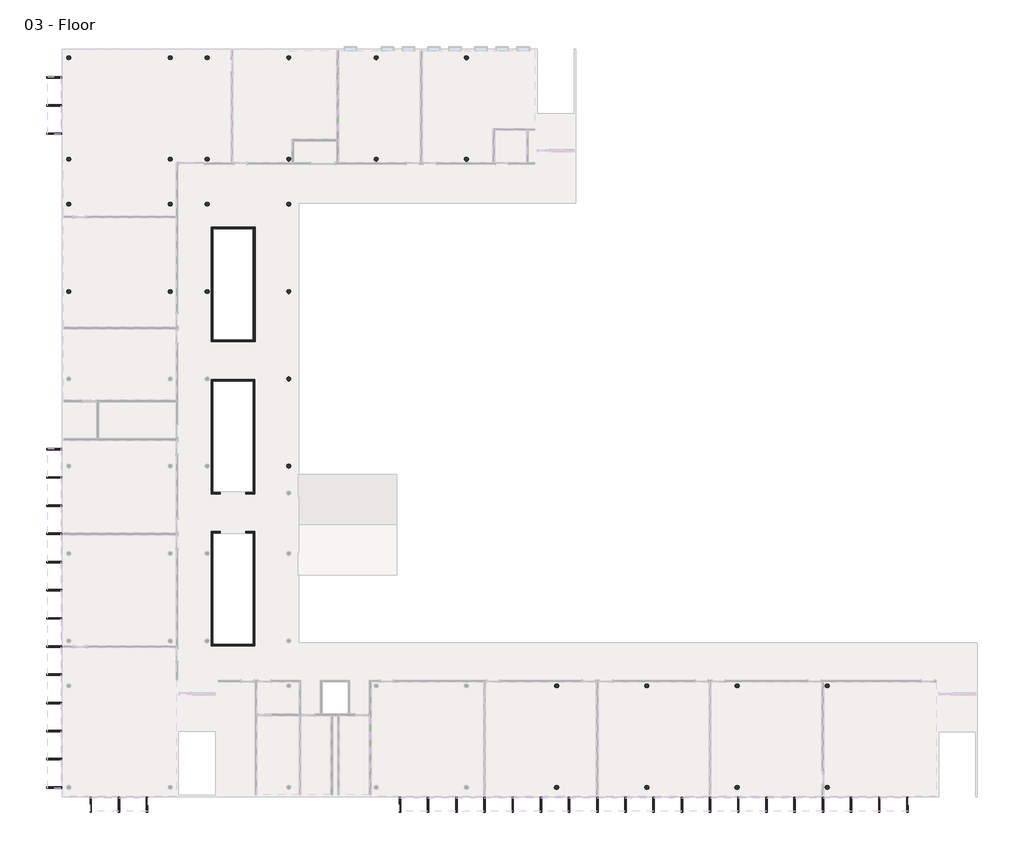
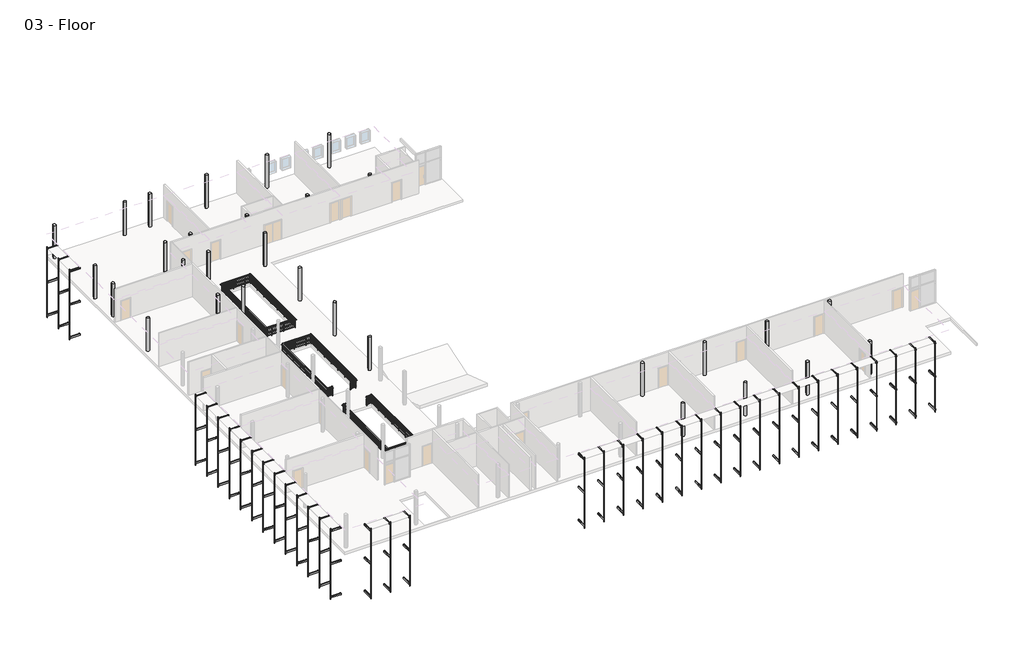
# One storey, part 4 of 4: 38 proxies, 30 columns, 3 railings.
"""IFC4 building model written with IfcOpenShell, lengths in millimetres."""

from ifc_helpers import new_model, si_unit, point, frame, frame_2d, origin, place, context, project, spatial, circle_curve, trimmed, segment, composite_curve, outline, extrude, transform, mapped, element, save
from components import shade_support_shade_support_fc9bf8e5, guardrail_pipe_deec17ca, guardrail_pipe_8e6e829c, guardrail_pipe_cbd437d9, guardrail_pipe_e2f870d2, guardrail_pipe_d067cc8d, guardrail_pipe_aaa3e98f

model = new_model("IFC4")

# Units and contexts
model_context = context("Model", 3, world=origin())
ifc_project = project(units=[si_unit("LENGTHUNIT", "METRE", prefix="MILLI")], contexts=[model_context])

# Site, building, storey
site = spatial("IfcSite", under=ifc_project)
building = spatial("IfcBuilding", under=site)
storey = spatial("IfcBuildingStorey", under=building, Name="03 - Floor", Elevation=7315.2)

# Proxies
placement = place(None, origin())
shade_support_shade_support_shape = shade_support_shade_support_fc9bf8e5(model_context)
element("IfcBuildingElementProxy", 1, Name="SHADE SUPPORT : SHADE SUPPORT", ObjectType="SHADE SUPPORT : SHADE SUPPORT", at=placement, inside=storey, context=model_context, shape_type="MappedRepresentation", body=[
    mapped(shade_support_shade_support_shape, transform((2210.7207476, -111.2, 2470.15), x_axis=(1.0, 0.0, 0.0), y_axis=(0.0, 0.0, 1.0), z_axis=(0.0, -1.0, 0.0))),
])
element("IfcBuildingElementProxy", 2, Name="SHADE SUPPORT : SHADE SUPPORT", ObjectType="SHADE SUPPORT : SHADE SUPPORT", at=placement, inside=storey, context=model_context, shape_type="MappedRepresentation", body=[
    mapped(shade_support_shade_support_shape, transform((4242.7207476, -111.2, 2470.15), x_axis=(1.0, 0.0, 0.0), y_axis=(0.0, 0.0, 1.0), z_axis=(0.0, -1.0, 0.0))),
])
element("IfcBuildingElementProxy", 3, Name="SHADE SUPPORT : SHADE SUPPORT", ObjectType="SHADE SUPPORT : SHADE SUPPORT", at=placement, inside=storey, context=model_context, shape_type="MappedRepresentation", body=[
    mapped(shade_support_shade_support_shape, transform((6274.7207476, -111.2, 2470.15), x_axis=(1.0, 0.0, 0.0), y_axis=(0.0, 0.0, 1.0), z_axis=(0.0, -1.0, 0.0))),
])
element("IfcBuildingElementProxy", 4, Name="SHADE SUPPORT : SHADE SUPPORT", ObjectType="SHADE SUPPORT : SHADE SUPPORT", at=placement, inside=storey, context=model_context, shape_type="MappedRepresentation", body=[
    mapped(shade_support_shade_support_shape, transform((24499.2207476, -111.2, 2470.15), x_axis=(1.0, 0.0, 0.0), y_axis=(0.0, 0.0, 1.0), z_axis=(0.0, -1.0, 0.0))),
])
element("IfcBuildingElementProxy", 5, Name="SHADE SUPPORT : SHADE SUPPORT", ObjectType="SHADE SUPPORT : SHADE SUPPORT", at=placement, inside=storey, context=model_context, shape_type="MappedRepresentation", body=[
    mapped(shade_support_shade_support_shape, transform((26531.2207476, -111.2, 2470.15), x_axis=(1.0, 0.0, 0.0), y_axis=(0.0, 0.0, 1.0), z_axis=(0.0, -1.0, 0.0))),
])
element("IfcBuildingElementProxy", 6, Name="SHADE SUPPORT : SHADE SUPPORT", ObjectType="SHADE SUPPORT : SHADE SUPPORT", at=placement, inside=storey, context=model_context, shape_type="MappedRepresentation", body=[
    mapped(shade_support_shade_support_shape, transform((28563.2207476, -111.2, 2470.15), x_axis=(1.0, 0.0, 0.0), y_axis=(0.0, 0.0, 1.0), z_axis=(0.0, -1.0, 0.0))),
])
element("IfcBuildingElementProxy", 7, Name="SHADE SUPPORT : SHADE SUPPORT", ObjectType="SHADE SUPPORT : SHADE SUPPORT", at=placement, inside=storey, context=model_context, shape_type="MappedRepresentation", body=[
    mapped(shade_support_shade_support_shape, transform((30595.2207476, -111.2, 2470.15), x_axis=(1.0, 0.0, 0.0), y_axis=(0.0, 0.0, 1.0), z_axis=(0.0, -1.0, 0.0))),
])
element("IfcBuildingElementProxy", 8, Name="SHADE SUPPORT : SHADE SUPPORT", ObjectType="SHADE SUPPORT : SHADE SUPPORT", at=placement, inside=storey, context=model_context, shape_type="MappedRepresentation", body=[
    mapped(shade_support_shade_support_shape, transform((32627.2207476, -111.2, 2470.15), x_axis=(1.0, 0.0, 0.0), y_axis=(0.0, 0.0, 1.0), z_axis=(0.0, -1.0, 0.0))),
])
element("IfcBuildingElementProxy", 9, Name="SHADE SUPPORT : SHADE SUPPORT", ObjectType="SHADE SUPPORT : SHADE SUPPORT", at=placement, inside=storey, context=model_context, shape_type="MappedRepresentation", body=[
    mapped(shade_support_shade_support_shape, transform((34659.2207476, -111.2, 2470.15), x_axis=(1.0, 0.0, 0.0), y_axis=(0.0, 0.0, 1.0), z_axis=(0.0, -1.0, 0.0))),
])
element("IfcBuildingElementProxy", 10, Name="SHADE SUPPORT : SHADE SUPPORT", ObjectType="SHADE SUPPORT : SHADE SUPPORT", at=placement, inside=storey, context=model_context, shape_type="MappedRepresentation", body=[
    mapped(shade_support_shade_support_shape, transform((36691.2207476, -111.2, 2470.15), x_axis=(1.0, 0.0, 0.0), y_axis=(0.0, 0.0, 1.0), z_axis=(0.0, -1.0, 0.0))),
])
element("IfcBuildingElementProxy", 11, Name="SHADE SUPPORT : SHADE SUPPORT", ObjectType="SHADE SUPPORT : SHADE SUPPORT", at=placement, inside=storey, context=model_context, shape_type="MappedRepresentation", body=[
    mapped(shade_support_shade_support_shape, transform((38723.2207476, -111.2, 2470.15), x_axis=(1.0, 0.0, 0.0), y_axis=(0.0, 0.0, 1.0), z_axis=(0.0, -1.0, 0.0))),
])
element("IfcBuildingElementProxy", 12, Name="SHADE SUPPORT : SHADE SUPPORT", ObjectType="SHADE SUPPORT : SHADE SUPPORT", at=placement, inside=storey, context=model_context, shape_type="MappedRepresentation", body=[
    mapped(shade_support_shade_support_shape, transform((40755.2207476, -111.2, 2470.15), x_axis=(1.0, 0.0, 0.0), y_axis=(0.0, 0.0, 1.0), z_axis=(0.0, -1.0, 0.0))),
])
element("IfcBuildingElementProxy", 13, Name="SHADE SUPPORT : SHADE SUPPORT", ObjectType="SHADE SUPPORT : SHADE SUPPORT", at=placement, inside=storey, context=model_context, shape_type="MappedRepresentation", body=[
    mapped(shade_support_shade_support_shape, transform((42787.2207476, -111.2, 2470.15), x_axis=(1.0, 0.0, 0.0), y_axis=(0.0, 0.0, 1.0), z_axis=(0.0, -1.0, 0.0))),
])
element("IfcBuildingElementProxy", 14, Name="SHADE SUPPORT : SHADE SUPPORT", ObjectType="SHADE SUPPORT : SHADE SUPPORT", at=placement, inside=storey, context=model_context, shape_type="MappedRepresentation", body=[
    mapped(shade_support_shade_support_shape, transform((44819.2207476, -111.2, 2470.15), x_axis=(1.0, 0.0, 0.0), y_axis=(0.0, 0.0, 1.0), z_axis=(0.0, -1.0, 0.0))),
])
element("IfcBuildingElementProxy", 15, Name="SHADE SUPPORT : SHADE SUPPORT", ObjectType="SHADE SUPPORT : SHADE SUPPORT", at=placement, inside=storey, context=model_context, shape_type="MappedRepresentation", body=[
    mapped(shade_support_shade_support_shape, transform((46851.2207476, -111.2, 2470.15), x_axis=(1.0, 0.0, 0.0), y_axis=(0.0, 0.0, 1.0), z_axis=(0.0, -1.0, 0.0))),
])
element("IfcBuildingElementProxy", 16, Name="SHADE SUPPORT : SHADE SUPPORT", ObjectType="SHADE SUPPORT : SHADE SUPPORT", at=placement, inside=storey, context=model_context, shape_type="MappedRepresentation", body=[
    mapped(shade_support_shade_support_shape, transform((48883.2207476, -111.2, 2470.15), x_axis=(1.0, 0.0, 0.0), y_axis=(0.0, 0.0, 1.0), z_axis=(0.0, -1.0, 0.0))),
])
element("IfcBuildingElementProxy", 17, Name="SHADE SUPPORT : SHADE SUPPORT", ObjectType="SHADE SUPPORT : SHADE SUPPORT", at=placement, inside=storey, context=model_context, shape_type="MappedRepresentation", body=[
    mapped(shade_support_shade_support_shape, transform((50915.2207476, -111.2, 2470.15), x_axis=(1.0, 0.0, 0.0), y_axis=(0.0, 0.0, 1.0), z_axis=(0.0, -1.0, 0.0))),
])
element("IfcBuildingElementProxy", 18, Name="SHADE SUPPORT : SHADE SUPPORT", ObjectType="SHADE SUPPORT : SHADE SUPPORT", at=placement, inside=storey, context=model_context, shape_type="MappedRepresentation", body=[
    mapped(shade_support_shade_support_shape, transform((52947.2207476, -111.2, 2470.15), x_axis=(1.0, 0.0, 0.0), y_axis=(0.0, 0.0, 1.0), z_axis=(0.0, -1.0, 0.0))),
])
element("IfcBuildingElementProxy", 19, Name="SHADE SUPPORT : SHADE SUPPORT", ObjectType="SHADE SUPPORT : SHADE SUPPORT", at=placement, inside=storey, context=model_context, shape_type="MappedRepresentation", body=[
    mapped(shade_support_shade_support_shape, transform((54979.2207476, -111.2, 2470.15), x_axis=(1.0, 0.0, 0.0), y_axis=(0.0, 0.0, 1.0), z_axis=(0.0, -1.0, 0.0))),
])
element("IfcBuildingElementProxy", 20, Name="SHADE SUPPORT : SHADE SUPPORT", ObjectType="SHADE SUPPORT : SHADE SUPPORT", at=placement, inside=storey, context=model_context, shape_type="MappedRepresentation", body=[
    mapped(shade_support_shade_support_shape, transform((57011.2207476, -111.2, 2470.15), x_axis=(1.0, 0.0, 0.0), y_axis=(0.0, 0.0, 1.0), z_axis=(0.0, -1.0, 0.0))),
])
element("IfcBuildingElementProxy", 21, Name="SHADE SUPPORT : SHADE SUPPORT", ObjectType="SHADE SUPPORT : SHADE SUPPORT", at=placement, inside=storey, context=model_context, shape_type="MappedRepresentation", body=[
    mapped(shade_support_shade_support_shape, transform((59043.2207476, -111.2, 2470.15), x_axis=(1.0, 0.0, 0.0), y_axis=(0.0, 0.0, 1.0), z_axis=(0.0, -1.0, 0.0))),
])
element("IfcBuildingElementProxy", 22, Name="SHADE SUPPORT : SHADE SUPPORT", ObjectType="SHADE SUPPORT : SHADE SUPPORT", at=placement, inside=storey, context=model_context, shape_type="MappedRepresentation", body=[
    mapped(shade_support_shade_support_shape, transform((61075.2207476, -111.2, 2470.15), x_axis=(1.0, 0.0, 0.0), y_axis=(0.0, 0.0, 1.0), z_axis=(0.0, -1.0, 0.0))),
])
element("IfcBuildingElementProxy", 23, Name="SHADE SUPPORT : SHADE SUPPORT", ObjectType="SHADE SUPPORT : SHADE SUPPORT", at=placement, inside=storey, context=model_context, shape_type="MappedRepresentation", body=[
    mapped(shade_support_shade_support_shape, transform((115.2207476, 600.0, 2470.15), x_axis=(0.0, -1.0, 0.0), y_axis=(0.0, 0.0, 1.0), z_axis=(-1.0, 0.0, 0.0))),
])
element("IfcBuildingElementProxy", 24, Name="SHADE SUPPORT : SHADE SUPPORT", ObjectType="SHADE SUPPORT : SHADE SUPPORT", at=placement, inside=storey, context=model_context, shape_type="MappedRepresentation", body=[
    mapped(shade_support_shade_support_shape, transform((115.2207476, 2632.0, 2470.15), x_axis=(0.0, -1.0, 0.0), y_axis=(0.0, 0.0, 1.0), z_axis=(-1.0, 0.0, 0.0))),
])
element("IfcBuildingElementProxy", 25, Name="SHADE SUPPORT : SHADE SUPPORT", ObjectType="SHADE SUPPORT : SHADE SUPPORT", at=placement, inside=storey, context=model_context, shape_type="MappedRepresentation", body=[
    mapped(shade_support_shade_support_shape, transform((115.2207476, 4664.0, 2470.15), x_axis=(0.0, -1.0, 0.0), y_axis=(0.0, 0.0, 1.0), z_axis=(-1.0, 0.0, 0.0))),
])
element("IfcBuildingElementProxy", 26, Name="SHADE SUPPORT : SHADE SUPPORT", ObjectType="SHADE SUPPORT : SHADE SUPPORT", at=placement, inside=storey, context=model_context, shape_type="MappedRepresentation", body=[
    mapped(shade_support_shade_support_shape, transform((115.2207476, 6696.0, 2470.15), x_axis=(0.0, -1.0, 0.0), y_axis=(0.0, 0.0, 1.0), z_axis=(-1.0, 0.0, 0.0))),
])
element("IfcBuildingElementProxy", 27, Name="SHADE SUPPORT : SHADE SUPPORT", ObjectType="SHADE SUPPORT : SHADE SUPPORT", at=placement, inside=storey, context=model_context, shape_type="MappedRepresentation", body=[
    mapped(shade_support_shade_support_shape, transform((115.2207476, 8728.0, 2470.15), x_axis=(0.0, -1.0, 0.0), y_axis=(0.0, 0.0, 1.0), z_axis=(-1.0, 0.0, 0.0))),
])
element("IfcBuildingElementProxy", 28, Name="SHADE SUPPORT : SHADE SUPPORT", ObjectType="SHADE SUPPORT : SHADE SUPPORT", at=placement, inside=storey, context=model_context, shape_type="MappedRepresentation", body=[
    mapped(shade_support_shade_support_shape, transform((115.2207476, 10760.0, 2470.15), x_axis=(0.0, -1.0, 0.0), y_axis=(0.0, 0.0, 1.0), z_axis=(-1.0, 0.0, 0.0))),
])
element("IfcBuildingElementProxy", 29, Name="SHADE SUPPORT : SHADE SUPPORT", ObjectType="SHADE SUPPORT : SHADE SUPPORT", at=placement, inside=storey, context=model_context, shape_type="MappedRepresentation", body=[
    mapped(shade_support_shade_support_shape, transform((115.2207476, 12792.0, 2470.15), x_axis=(0.0, -1.0, 0.0), y_axis=(0.0, 0.0, 1.0), z_axis=(-1.0, 0.0, 0.0))),
])
element("IfcBuildingElementProxy", 30, Name="SHADE SUPPORT : SHADE SUPPORT", ObjectType="SHADE SUPPORT : SHADE SUPPORT", at=placement, inside=storey, context=model_context, shape_type="MappedRepresentation", body=[
    mapped(shade_support_shade_support_shape, transform((115.2207476, 14824.0, 2470.15), x_axis=(0.0, -1.0, 0.0), y_axis=(0.0, 0.0, 1.0), z_axis=(-1.0, 0.0, 0.0))),
])
element("IfcBuildingElementProxy", 31, Name="SHADE SUPPORT : SHADE SUPPORT", ObjectType="SHADE SUPPORT : SHADE SUPPORT", at=placement, inside=storey, context=model_context, shape_type="MappedRepresentation", body=[
    mapped(shade_support_shade_support_shape, transform((115.2207476, 16856.0, 2470.15), x_axis=(0.0, -1.0, 0.0), y_axis=(0.0, 0.0, 1.0), z_axis=(-1.0, 0.0, 0.0))),
])
element("IfcBuildingElementProxy", 32, Name="SHADE SUPPORT : SHADE SUPPORT", ObjectType="SHADE SUPPORT : SHADE SUPPORT", at=placement, inside=storey, context=model_context, shape_type="MappedRepresentation", body=[
    mapped(shade_support_shade_support_shape, transform((115.2207476, 18888.0, 2470.15), x_axis=(0.0, -1.0, 0.0), y_axis=(0.0, 0.0, 1.0), z_axis=(-1.0, 0.0, 0.0))),
])
element("IfcBuildingElementProxy", 33, Name="SHADE SUPPORT : SHADE SUPPORT", ObjectType="SHADE SUPPORT : SHADE SUPPORT", at=placement, inside=storey, context=model_context, shape_type="MappedRepresentation", body=[
    mapped(shade_support_shade_support_shape, transform((115.2207476, 20920.0, 2470.15), x_axis=(0.0, -1.0, 0.0), y_axis=(0.0, 0.0, 1.0), z_axis=(-1.0, 0.0, 0.0))),
])
element("IfcBuildingElementProxy", 34, Name="SHADE SUPPORT : SHADE SUPPORT", ObjectType="SHADE SUPPORT : SHADE SUPPORT", at=placement, inside=storey, context=model_context, shape_type="MappedRepresentation", body=[
    mapped(shade_support_shade_support_shape, transform((115.2207476, 22952.0, 2470.15), x_axis=(0.0, -1.0, 0.0), y_axis=(0.0, 0.0, 1.0), z_axis=(-1.0, 0.0, 0.0))),
])
element("IfcBuildingElementProxy", 35, Name="SHADE SUPPORT : SHADE SUPPORT", ObjectType="SHADE SUPPORT : SHADE SUPPORT", at=placement, inside=storey, context=model_context, shape_type="MappedRepresentation", body=[
    mapped(shade_support_shade_support_shape, transform((115.2207476, 24984.0, 2470.15), x_axis=(0.0, -1.0, 0.0), y_axis=(0.0, 0.0, 1.0), z_axis=(-1.0, 0.0, 0.0))),
])
element("IfcBuildingElementProxy", 36, Name="SHADE SUPPORT : SHADE SUPPORT", ObjectType="SHADE SUPPORT : SHADE SUPPORT", at=placement, inside=storey, context=model_context, shape_type="MappedRepresentation", body=[
    mapped(shade_support_shade_support_shape, transform((115.2207476, 47748.75, 2470.15), x_axis=(0.0, -1.0, 0.0), y_axis=(0.0, 0.0, 1.0), z_axis=(-1.0, 0.0, 0.0))),
])
element("IfcBuildingElementProxy", 37, Name="SHADE SUPPORT : SHADE SUPPORT", ObjectType="SHADE SUPPORT : SHADE SUPPORT", at=placement, inside=storey, context=model_context, shape_type="MappedRepresentation", body=[
    mapped(shade_support_shade_support_shape, transform((115.2207476, 49780.75, 2470.15), x_axis=(0.0, -1.0, 0.0), y_axis=(0.0, 0.0, 1.0), z_axis=(-1.0, 0.0, 0.0))),
])
element("IfcBuildingElementProxy", 38, Name="SHADE SUPPORT : SHADE SUPPORT", ObjectType="SHADE SUPPORT : SHADE SUPPORT", at=placement, inside=storey, context=model_context, shape_type="MappedRepresentation", body=[
    mapped(shade_support_shade_support_shape, transform((115.2207476, 51812.75, 2470.15), x_axis=(0.0, -1.0, 0.0), y_axis=(0.0, 0.0, 1.0), z_axis=(-1.0, 0.0, 0.0))),
])

# Columns
element("IfcColumn", 39, ObjectType="Concrete-Round-Column : 12\"", at=placement, inside=storey, context=model_context, shape_type="SweptSolid", body=[
    extrude(outline(composite_curve([segment(trimmed(circle_curve(frame_2d((635.9207476, 53228.8)), 152.4), [point((788.3207476, 53228.8))], [point((483.5207476, 53228.8))], False, "CARTESIAN"), True, "CONTINUOUS"), segment(trimmed(circle_curve(frame_2d((635.9207476, 53228.8)), 152.4), [point((483.5207476, 53228.8))], [point((788.3207476, 53228.8))], False, "CARTESIAN"), True, "CONTINUOUS")], self_intersect=False)), frame((0.0, 0.0, 7315.2), z_axis=(0.0, 0.0, 1.0), x_axis=(1.0, 0.0, 0.0)), (0.0, 0.0, 1.0), 3657.6),
])
element("IfcColumn", 40, ObjectType="Concrete-Round-Column : 12\"", at=placement, inside=storey, context=model_context, shape_type="SweptSolid", body=[
    extrude(outline(composite_curve([segment(trimmed(circle_curve(frame_2d((635.9207476, 45913.6)), 152.4), [point((788.3207476, 45913.6))], [point((483.5207476, 45913.6))], False, "CARTESIAN"), True, "CONTINUOUS"), segment(trimmed(circle_curve(frame_2d((635.9207476, 45913.6)), 152.4), [point((483.5207476, 45913.6))], [point((788.3207476, 45913.6))], False, "CARTESIAN"), True, "CONTINUOUS")], self_intersect=False)), frame((0.0, 0.0, 7315.2), z_axis=(0.0, 0.0, 1.0), x_axis=(1.0, 0.0, 0.0)), (0.0, 0.0, 1.0), 3657.6),
])
element("IfcColumn", 41, ObjectType="Concrete-Round-Column : 12\"", at=placement, inside=storey, context=model_context, shape_type="SweptSolid", body=[
    extrude(outline(composite_curve([segment(trimmed(circle_curve(frame_2d((635.9207476, 42662.4)), 152.4), [point((788.3207476, 42662.4))], [point((483.5207476, 42662.4))], False, "CARTESIAN"), True, "CONTINUOUS"), segment(trimmed(circle_curve(frame_2d((635.9207476, 42662.4)), 152.4), [point((483.5207476, 42662.4))], [point((788.3207476, 42662.4))], False, "CARTESIAN"), True, "CONTINUOUS")], self_intersect=False)), frame((0.0, 0.0, 7315.2), z_axis=(0.0, 0.0, 1.0), x_axis=(1.0, 0.0, 0.0)), (0.0, 0.0, 1.0), 3657.6),
])
element("IfcColumn", 42, ObjectType="Concrete-Round-Column : 12\"", at=placement, inside=storey, context=model_context, shape_type="SweptSolid", body=[
    extrude(outline(composite_curve([segment(trimmed(circle_curve(frame_2d((635.9207476, 36363.2)), 152.4), [point((788.3207476, 36363.2))], [point((483.5207476, 36363.2))], False, "CARTESIAN"), True, "CONTINUOUS"), segment(trimmed(circle_curve(frame_2d((635.9207476, 36363.2)), 152.4), [point((483.5207476, 36363.2))], [point((788.3207476, 36363.2))], False, "CARTESIAN"), True, "CONTINUOUS")], self_intersect=False)), frame((0.0, 0.0, 7315.2), z_axis=(0.0, 0.0, 1.0), x_axis=(1.0, 0.0, 0.0)), (0.0, 0.0, 1.0), 3657.6),
])
element("IfcColumn", 43, ObjectType="Concrete-Round-Column : 12\"", at=placement, inside=storey, context=model_context, shape_type="SweptSolid", body=[
    extrude(outline(composite_curve([segment(trimmed(circle_curve(frame_2d((10592.7207476, 53228.8)), 152.4), [point((10745.1207476, 53228.8))], [point((10440.3207476, 53228.8))], False, "CARTESIAN"), True, "CONTINUOUS"), segment(trimmed(circle_curve(frame_2d((10592.7207476, 53228.8)), 152.4), [point((10440.3207476, 53228.8))], [point((10745.1207476, 53228.8))], False, "CARTESIAN"), True, "CONTINUOUS")], self_intersect=False)), frame((0.0, 0.0, 7315.2), z_axis=(0.0, 0.0, 1.0), x_axis=(1.0, 0.0, 0.0)), (0.0, 0.0, 1.0), 3657.6),
])
element("IfcColumn", 44, ObjectType="Concrete-Round-Column : 12\"", at=placement, inside=storey, context=model_context, shape_type="SweptSolid", body=[
    extrude(outline(composite_curve([segment(trimmed(circle_curve(frame_2d((10592.7207476, 45913.6)), 152.4), [point((10745.1207476, 45913.6))], [point((10440.3207476, 45913.6))], False, "CARTESIAN"), True, "CONTINUOUS"), segment(trimmed(circle_curve(frame_2d((10592.7207476, 45913.6)), 152.4), [point((10440.3207476, 45913.6))], [point((10745.1207476, 45913.6))], False, "CARTESIAN"), True, "CONTINUOUS")], self_intersect=False)), frame((0.0, 0.0, 7315.2), z_axis=(0.0, 0.0, 1.0), x_axis=(1.0, 0.0, 0.0)), (0.0, 0.0, 1.0), 3657.6),
])
element("IfcColumn", 45, ObjectType="Concrete-Round-Column : 12\"", at=placement, inside=storey, context=model_context, shape_type="SweptSolid", body=[
    extrude(outline(composite_curve([segment(trimmed(circle_curve(frame_2d((10592.7207476, 42662.4)), 152.4), [point((10745.1207476, 42662.4))], [point((10440.3207476, 42662.4))], False, "CARTESIAN"), True, "CONTINUOUS"), segment(trimmed(circle_curve(frame_2d((10592.7207476, 42662.4)), 152.4), [point((10440.3207476, 42662.4))], [point((10745.1207476, 42662.4))], False, "CARTESIAN"), True, "CONTINUOUS")], self_intersect=False)), frame((0.0, 0.0, 7315.2), z_axis=(0.0, 0.0, 1.0), x_axis=(1.0, 0.0, 0.0)), (0.0, 0.0, 1.0), 3657.6),
])
element("IfcColumn", 46, ObjectType="Concrete-Round-Column : 12\"", at=placement, inside=storey, context=model_context, shape_type="SweptSolid", body=[
    extrude(outline(composite_curve([segment(trimmed(circle_curve(frame_2d((10592.7207476, 36363.2)), 152.4), [point((10745.1207476, 36363.2))], [point((10440.3207476, 36363.2))], False, "CARTESIAN"), True, "CONTINUOUS"), segment(trimmed(circle_curve(frame_2d((10592.7207476, 36363.2)), 152.4), [point((10440.3207476, 36363.2))], [point((10745.1207476, 36363.2))], False, "CARTESIAN"), True, "CONTINUOUS")], self_intersect=False)), frame((0.0, 0.0, 7315.2), z_axis=(0.0, 0.0, 1.0), x_axis=(1.0, 0.0, 0.0)), (0.0, 0.0, 1.0), 3657.6),
])
element("IfcColumn", 47, ObjectType="Concrete-Round-Column : 12\"", at=placement, inside=storey, context=model_context, shape_type="SweptSolid", body=[
    extrude(outline(composite_curve([segment(trimmed(circle_curve(frame_2d((16485.5207476, 53228.8)), 152.4), [point((16637.9207476, 53228.8))], [point((16333.1207476, 53228.8))], False, "CARTESIAN"), True, "CONTINUOUS"), segment(trimmed(circle_curve(frame_2d((16485.5207476, 53228.8)), 152.4), [point((16333.1207476, 53228.8))], [point((16637.9207476, 53228.8))], False, "CARTESIAN"), True, "CONTINUOUS")], self_intersect=False)), frame((0.0, 0.0, 7315.2), z_axis=(0.0, 0.0, 1.0), x_axis=(1.0, 0.0, 0.0)), (0.0, 0.0, 1.0), 3657.6),
])
element("IfcColumn", 48, ObjectType="Concrete-Round-Column : 12\"", at=placement, inside=storey, context=model_context, shape_type="SweptSolid", body=[
    extrude(outline(composite_curve([segment(trimmed(circle_curve(frame_2d((16485.5207476, 45913.6)), 152.4), [point((16637.9207476, 45913.6))], [point((16333.1207476, 45913.6))], False, "CARTESIAN"), True, "CONTINUOUS"), segment(trimmed(circle_curve(frame_2d((16485.5207476, 45913.6)), 152.4), [point((16333.1207476, 45913.6))], [point((16637.9207476, 45913.6))], False, "CARTESIAN"), True, "CONTINUOUS")], self_intersect=False)), frame((0.0, 0.0, 7315.2), z_axis=(0.0, 0.0, 1.0), x_axis=(1.0, 0.0, 0.0)), (0.0, 0.0, 1.0), 3657.6),
])
element("IfcColumn", 49, ObjectType="Concrete-Round-Column : 12\"", at=placement, inside=storey, context=model_context, shape_type="SweptSolid", body=[
    extrude(outline(composite_curve([segment(trimmed(circle_curve(frame_2d((16485.5207476, 42662.4)), 152.4), [point((16637.9207476, 42662.4))], [point((16333.1207476, 42662.4))], False, "CARTESIAN"), True, "CONTINUOUS"), segment(trimmed(circle_curve(frame_2d((16485.5207476, 42662.4)), 152.4), [point((16333.1207476, 42662.4))], [point((16637.9207476, 42662.4))], False, "CARTESIAN"), True, "CONTINUOUS")], self_intersect=False)), frame((0.0, 0.0, 7315.2), z_axis=(0.0, 0.0, 1.0), x_axis=(1.0, 0.0, 0.0)), (0.0, 0.0, 1.0), 3657.6),
])
element("IfcColumn", 50, ObjectType="Concrete-Round-Column : 12\"", at=placement, inside=storey, context=model_context, shape_type="SweptSolid", body=[
    extrude(outline(composite_curve([segment(trimmed(circle_curve(frame_2d((16485.5207476, 36363.2)), 152.4), [point((16637.9207476, 36363.2))], [point((16333.1207476, 36363.2))], False, "CARTESIAN"), True, "CONTINUOUS"), segment(trimmed(circle_curve(frame_2d((16485.5207476, 36363.2)), 152.4), [point((16333.1207476, 36363.2))], [point((16637.9207476, 36363.2))], False, "CARTESIAN"), True, "CONTINUOUS")], self_intersect=False)), frame((0.0, 0.0, 7315.2), z_axis=(0.0, 0.0, 1.0), x_axis=(1.0, 0.0, 0.0)), (0.0, 0.0, 1.0), 3657.6),
])
element("IfcColumn", 51, ObjectType="Concrete-Round-Column : 12\"", at=placement, inside=storey, context=model_context, shape_type="SweptSolid", body=[
    extrude(outline(composite_curve([segment(trimmed(circle_curve(frame_2d((16485.5207476, 30064.0)), 152.4), [point((16637.9207476, 30064.0))], [point((16333.1207476, 30064.0))], False, "CARTESIAN"), True, "CONTINUOUS"), segment(trimmed(circle_curve(frame_2d((16485.5207476, 30064.0)), 152.4), [point((16333.1207476, 30064.0))], [point((16637.9207476, 30064.0))], False, "CARTESIAN"), True, "CONTINUOUS")], self_intersect=False)), frame((0.0, 0.0, 7315.2), z_axis=(0.0, 0.0, 1.0), x_axis=(1.0, 0.0, 0.0)), (0.0, 0.0, 1.0), 3657.6),
])
element("IfcColumn", 52, ObjectType="Concrete-Round-Column : 12\"", at=placement, inside=storey, context=model_context, shape_type="SweptSolid", body=[
    extrude(outline(composite_curve([segment(trimmed(circle_curve(frame_2d((16485.5207476, 23764.8)), 152.4), [point((16637.9207476, 23764.8))], [point((16333.1207476, 23764.8))], False, "CARTESIAN"), True, "CONTINUOUS"), segment(trimmed(circle_curve(frame_2d((16485.5207476, 23764.8)), 152.4), [point((16333.1207476, 23764.8))], [point((16637.9207476, 23764.8))], False, "CARTESIAN"), True, "CONTINUOUS")], self_intersect=False)), frame((0.0, 0.0, 7315.2), z_axis=(0.0, 0.0, 1.0), x_axis=(1.0, 0.0, 0.0)), (0.0, 0.0, 1.0), 3657.6),
])
element("IfcColumn", 53, ObjectType="Concrete-Round-Column : 12\"", at=placement, inside=storey, context=model_context, shape_type="SweptSolid", body=[
    extrude(outline(composite_curve([segment(trimmed(circle_curve(frame_2d((22784.7207476, 53228.8)), 152.4), [point((22937.1207476, 53228.8))], [point((22632.3207476, 53228.8))], False, "CARTESIAN"), True, "CONTINUOUS"), segment(trimmed(circle_curve(frame_2d((22784.7207476, 53228.8)), 152.4), [point((22632.3207476, 53228.8))], [point((22937.1207476, 53228.8))], False, "CARTESIAN"), True, "CONTINUOUS")], self_intersect=False)), frame((0.0, 0.0, 7315.2), z_axis=(0.0, 0.0, 1.0), x_axis=(1.0, 0.0, 0.0)), (0.0, 0.0, 1.0), 3657.6),
])
element("IfcColumn", 54, ObjectType="Concrete-Round-Column : 12\"", at=placement, inside=storey, context=model_context, shape_type="SweptSolid", body=[
    extrude(outline(composite_curve([segment(trimmed(circle_curve(frame_2d((22784.7207476, 45913.6)), 152.4), [point((22937.1207476, 45913.6))], [point((22632.3207476, 45913.6))], False, "CARTESIAN"), True, "CONTINUOUS"), segment(trimmed(circle_curve(frame_2d((22784.7207476, 45913.6)), 152.4), [point((22632.3207476, 45913.6))], [point((22937.1207476, 45913.6))], False, "CARTESIAN"), True, "CONTINUOUS")], self_intersect=False)), frame((0.0, 0.0, 7315.2), z_axis=(0.0, 0.0, 1.0), x_axis=(1.0, 0.0, 0.0)), (0.0, 0.0, 1.0), 3657.6),
])
element("IfcColumn", 55, ObjectType="Concrete-Round-Column : 12\"", at=placement, inside=storey, context=model_context, shape_type="SweptSolid", body=[
    extrude(outline(composite_curve([segment(trimmed(circle_curve(frame_2d((29287.1207476, 53228.8)), 152.4), [point((29439.5207476, 53228.8))], [point((29134.7207476, 53228.8))], False, "CARTESIAN"), True, "CONTINUOUS"), segment(trimmed(circle_curve(frame_2d((29287.1207476, 53228.8)), 152.4), [point((29134.7207476, 53228.8))], [point((29439.5207476, 53228.8))], False, "CARTESIAN"), True, "CONTINUOUS")], self_intersect=False)), frame((0.0, 0.0, 7315.2), z_axis=(0.0, 0.0, 1.0), x_axis=(1.0, 0.0, 0.0)), (0.0, 0.0, 1.0), 3657.6),
])
element("IfcColumn", 56, ObjectType="Concrete-Round-Column : 12\"", at=placement, inside=storey, context=model_context, shape_type="SweptSolid", body=[
    extrude(outline(composite_curve([segment(trimmed(circle_curve(frame_2d((29287.1207476, 45913.6)), 152.4), [point((29439.5207476, 45913.6))], [point((29134.7207476, 45913.6))], False, "CARTESIAN"), True, "CONTINUOUS"), segment(trimmed(circle_curve(frame_2d((29287.1207476, 45913.6)), 152.4), [point((29134.7207476, 45913.6))], [point((29439.5207476, 45913.6))], False, "CARTESIAN"), True, "CONTINUOUS")], self_intersect=False)), frame((0.0, 0.0, 7315.2), z_axis=(0.0, 0.0, 1.0), x_axis=(1.0, 0.0, 0.0)), (0.0, 0.0, 1.0), 3657.6),
])
element("IfcColumn", 57, ObjectType="Concrete-Round-Column : 12\"", at=placement, inside=storey, context=model_context, shape_type="SweptSolid", body=[
    extrude(outline(composite_curve([segment(trimmed(circle_curve(frame_2d((35789.5207476, 7915.2)), 152.4), [point((35941.9207476, 7915.2))], [point((35637.1207476, 7915.2))], False, "CARTESIAN"), True, "CONTINUOUS"), segment(trimmed(circle_curve(frame_2d((35789.5207476, 7915.2)), 152.4), [point((35637.1207476, 7915.2))], [point((35941.9207476, 7915.2))], False, "CARTESIAN"), True, "CONTINUOUS")], self_intersect=False)), frame((0.0, 0.0, 7315.2), z_axis=(0.0, 0.0, 1.0), x_axis=(1.0, 0.0, 0.0)), (0.0, 0.0, 1.0), 3657.6),
])
element("IfcColumn", 58, ObjectType="Concrete-Round-Column : 12\"", at=placement, inside=storey, context=model_context, shape_type="SweptSolid", body=[
    extrude(outline(composite_curve([segment(trimmed(circle_curve(frame_2d((35789.5207476, 600.0)), 152.4), [point((35941.9207476, 600.0))], [point((35637.1207476, 600.0))], False, "CARTESIAN"), True, "CONTINUOUS"), segment(trimmed(circle_curve(frame_2d((35789.5207476, 600.0)), 152.4), [point((35637.1207476, 600.0))], [point((35941.9207476, 600.0))], False, "CARTESIAN"), True, "CONTINUOUS")], self_intersect=False)), frame((0.0, 0.0, 7315.2), z_axis=(0.0, 0.0, 1.0), x_axis=(1.0, 0.0, 0.0)), (0.0, 0.0, 1.0), 3657.6),
])
element("IfcColumn", 59, ObjectType="Concrete-Round-Column : 12\"", at=placement, inside=storey, context=model_context, shape_type="SweptSolid", body=[
    extrude(outline(composite_curve([segment(trimmed(circle_curve(frame_2d((42291.9207476, 7915.2)), 152.4), [point((42444.3207476, 7915.2))], [point((42139.5207476, 7915.2))], False, "CARTESIAN"), True, "CONTINUOUS"), segment(trimmed(circle_curve(frame_2d((42291.9207476, 7915.2)), 152.4), [point((42139.5207476, 7915.2))], [point((42444.3207476, 7915.2))], False, "CARTESIAN"), True, "CONTINUOUS")], self_intersect=False)), frame((0.0, 0.0, 7315.2), z_axis=(0.0, 0.0, 1.0), x_axis=(1.0, 0.0, 0.0)), (0.0, 0.0, 1.0), 3657.6),
])
element("IfcColumn", 60, ObjectType="Concrete-Round-Column : 12\"", at=placement, inside=storey, context=model_context, shape_type="SweptSolid", body=[
    extrude(outline(composite_curve([segment(trimmed(circle_curve(frame_2d((42291.9207476, 600.0)), 152.4), [point((42444.3207476, 600.0))], [point((42139.5207476, 600.0))], False, "CARTESIAN"), True, "CONTINUOUS"), segment(trimmed(circle_curve(frame_2d((42291.9207476, 600.0)), 152.4), [point((42139.5207476, 600.0))], [point((42444.3207476, 600.0))], False, "CARTESIAN"), True, "CONTINUOUS")], self_intersect=False)), frame((0.0, 0.0, 7315.2), z_axis=(0.0, 0.0, 1.0), x_axis=(1.0, 0.0, 0.0)), (0.0, 0.0, 1.0), 3657.6),
])
element("IfcColumn", 61, ObjectType="Concrete-Round-Column : 12\"", at=placement, inside=storey, context=model_context, shape_type="SweptSolid", body=[
    extrude(outline(composite_curve([segment(trimmed(circle_curve(frame_2d((48794.3207476, 7915.2)), 152.4), [point((48946.7207476, 7915.2))], [point((48641.9207476, 7915.2))], False, "CARTESIAN"), True, "CONTINUOUS"), segment(trimmed(circle_curve(frame_2d((48794.3207476, 7915.2)), 152.4), [point((48641.9207476, 7915.2))], [point((48946.7207476, 7915.2))], False, "CARTESIAN"), True, "CONTINUOUS")], self_intersect=False)), frame((0.0, 0.0, 7315.2), z_axis=(0.0, 0.0, 1.0), x_axis=(1.0, 0.0, 0.0)), (0.0, 0.0, 1.0), 3657.6),
])
element("IfcColumn", 62, ObjectType="Concrete-Round-Column : 12\"", at=placement, inside=storey, context=model_context, shape_type="SweptSolid", body=[
    extrude(outline(composite_curve([segment(trimmed(circle_curve(frame_2d((48794.3207476, 600.0)), 152.4), [point((48946.7207476, 600.0))], [point((48641.9207476, 600.0))], False, "CARTESIAN"), True, "CONTINUOUS"), segment(trimmed(circle_curve(frame_2d((48794.3207476, 600.0)), 152.4), [point((48641.9207476, 600.0))], [point((48946.7207476, 600.0))], False, "CARTESIAN"), True, "CONTINUOUS")], self_intersect=False)), frame((0.0, 0.0, 7315.2), z_axis=(0.0, 0.0, 1.0), x_axis=(1.0, 0.0, 0.0)), (0.0, 0.0, 1.0), 3657.6),
])
element("IfcColumn", 63, ObjectType="Concrete-Round-Column : 12\"", at=placement, inside=storey, context=model_context, shape_type="SweptSolid", body=[
    extrude(outline(composite_curve([segment(trimmed(circle_curve(frame_2d((55296.7207476, 7915.2)), 152.4), [point((55449.1207476, 7915.2))], [point((55144.3207476, 7915.2))], False, "CARTESIAN"), True, "CONTINUOUS"), segment(trimmed(circle_curve(frame_2d((55296.7207476, 7915.2)), 152.4), [point((55144.3207476, 7915.2))], [point((55449.1207476, 7915.2))], False, "CARTESIAN"), True, "CONTINUOUS")], self_intersect=False)), frame((0.0, 0.0, 7315.2), z_axis=(0.0, 0.0, 1.0), x_axis=(1.0, 0.0, 0.0)), (0.0, 0.0, 1.0), 3657.6),
])
element("IfcColumn", 64, ObjectType="Concrete-Round-Column : 12\"", at=placement, inside=storey, context=model_context, shape_type="SweptSolid", body=[
    extrude(outline(composite_curve([segment(trimmed(circle_curve(frame_2d((55296.7207476, 600.0)), 152.4), [point((55449.1207476, 600.0))], [point((55144.3207476, 600.0))], False, "CARTESIAN"), True, "CONTINUOUS"), segment(trimmed(circle_curve(frame_2d((55296.7207476, 600.0)), 152.4), [point((55144.3207476, 600.0))], [point((55449.1207476, 600.0))], False, "CARTESIAN"), True, "CONTINUOUS")], self_intersect=False)), frame((0.0, 0.0, 7315.2), z_axis=(0.0, 0.0, 1.0), x_axis=(1.0, 0.0, 0.0)), (0.0, 0.0, 1.0), 3657.6),
])
element("IfcColumn", 65, ObjectType="Concrete-Round-Column : 12\"", at=placement, inside=storey, context=model_context, shape_type="SweptSolid", body=[
    extrude(outline(composite_curve([segment(trimmed(circle_curve(frame_2d((7951.1207476, 53228.8)), 152.4), [point((8103.5207476, 53228.8))], [point((7798.7207476, 53228.8))], False, "CARTESIAN"), True, "CONTINUOUS"), segment(trimmed(circle_curve(frame_2d((7951.1207476, 53228.8)), 152.4), [point((7798.7207476, 53228.8))], [point((8103.5207476, 53228.8))], False, "CARTESIAN"), True, "CONTINUOUS")], self_intersect=False)), frame((0.0, 0.0, 7315.2), z_axis=(0.0, 0.0, 1.0), x_axis=(1.0, 0.0, 0.0)), (0.0, 0.0, 1.0), 3657.6),
])
element("IfcColumn", 66, ObjectType="Concrete-Round-Column : 12\"", at=placement, inside=storey, context=model_context, shape_type="SweptSolid", body=[
    extrude(outline(composite_curve([segment(trimmed(circle_curve(frame_2d((7951.1207476, 45913.6)), 152.4), [point((8103.5207476, 45913.6))], [point((7798.7207476, 45913.6))], False, "CARTESIAN"), True, "CONTINUOUS"), segment(trimmed(circle_curve(frame_2d((7951.1207476, 45913.6)), 152.4), [point((7798.7207476, 45913.6))], [point((8103.5207476, 45913.6))], False, "CARTESIAN"), True, "CONTINUOUS")], self_intersect=False)), frame((0.0, 0.0, 7315.2), z_axis=(0.0, 0.0, 1.0), x_axis=(1.0, 0.0, 0.0)), (0.0, 0.0, 1.0), 3657.6),
])
element("IfcColumn", 67, ObjectType="Concrete-Round-Column : 12\"", at=placement, inside=storey, context=model_context, shape_type="SweptSolid", body=[
    extrude(outline(composite_curve([segment(trimmed(circle_curve(frame_2d((7951.1207476, 42662.4)), 152.4), [point((8103.5207476, 42662.4))], [point((7798.7207476, 42662.4))], False, "CARTESIAN"), True, "CONTINUOUS"), segment(trimmed(circle_curve(frame_2d((7951.1207476, 42662.4)), 152.4), [point((7798.7207476, 42662.4))], [point((8103.5207476, 42662.4))], False, "CARTESIAN"), True, "CONTINUOUS")], self_intersect=False)), frame((0.0, 0.0, 7315.2), z_axis=(0.0, 0.0, 1.0), x_axis=(1.0, 0.0, 0.0)), (0.0, 0.0, 1.0), 3657.6),
])
element("IfcColumn", 68, ObjectType="Concrete-Round-Column : 12\"", at=placement, inside=storey, context=model_context, shape_type="SweptSolid", body=[
    extrude(outline(composite_curve([segment(trimmed(circle_curve(frame_2d((7951.1207476, 36363.2)), 152.4), [point((8103.5207476, 36363.2))], [point((7798.7207476, 36363.2))], False, "CARTESIAN"), True, "CONTINUOUS"), segment(trimmed(circle_curve(frame_2d((7951.1207476, 36363.2)), 152.4), [point((7798.7207476, 36363.2))], [point((8103.5207476, 36363.2))], False, "CARTESIAN"), True, "CONTINUOUS")], self_intersect=False)), frame((0.0, 0.0, 7315.2), z_axis=(0.0, 0.0, 1.0), x_axis=(1.0, 0.0, 0.0)), (0.0, 0.0, 1.0), 3657.6),
])

# Railings
guardrail_pipe_shape = guardrail_pipe_deec17ca(model_context)
guardrail_pipe_2_shape = guardrail_pipe_8e6e829c(model_context)
element("IfcRailing", 69, ObjectType="Guardrail - Pipe", at=placement, inside=storey, context=model_context, shape_type="MappedRepresentation", body=[
    mapped(guardrail_pipe_shape, transform((0.0, 0.0, 0.0), x_axis=(1.0, 0.0, 0.0), y_axis=(0.0, 1.0, 0.0), z_axis=(0.0, 0.0, 1.0))),
    mapped(guardrail_pipe_2_shape, transform((0.0, 0.0, 0.0), x_axis=(1.0, 0.0, 0.0), y_axis=(0.0, 1.0, 0.0), z_axis=(0.0, 0.0, 1.0))),
])
guardrail_pipe_3_shape = guardrail_pipe_cbd437d9(model_context)
guardrail_pipe_4_shape = guardrail_pipe_e2f870d2(model_context)
element("IfcRailing", 70, ObjectType="Guardrail - Pipe", at=placement, inside=storey, context=model_context, shape_type="MappedRepresentation", body=[
    mapped(guardrail_pipe_3_shape, transform((0.0, 0.0, 0.0), x_axis=(1.0, 0.0, 0.0), y_axis=(0.0, 1.0, 0.0), z_axis=(0.0, 0.0, 1.0))),
    mapped(guardrail_pipe_4_shape, transform((0.0, 0.0, 0.0), x_axis=(1.0, 0.0, 0.0), y_axis=(0.0, 1.0, 0.0), z_axis=(0.0, 0.0, 1.0))),
])
guardrail_pipe_5_shape = guardrail_pipe_d067cc8d(model_context)
guardrail_pipe_6_shape = guardrail_pipe_aaa3e98f(model_context)
element("IfcRailing", 71, ObjectType="Guardrail - Pipe", at=placement, inside=storey, context=model_context, shape_type="MappedRepresentation", body=[
    mapped(guardrail_pipe_5_shape, transform((0.0, 0.0, 0.0), x_axis=(1.0, 0.0, 0.0), y_axis=(0.0, 1.0, 0.0), z_axis=(0.0, 0.0, 1.0))),
    mapped(guardrail_pipe_6_shape, transform((0.0, 0.0, 0.0), x_axis=(1.0, 0.0, 0.0), y_axis=(0.0, 1.0, 0.0), z_axis=(0.0, 0.0, 1.0))),
])

save(model, "model.ifc")
